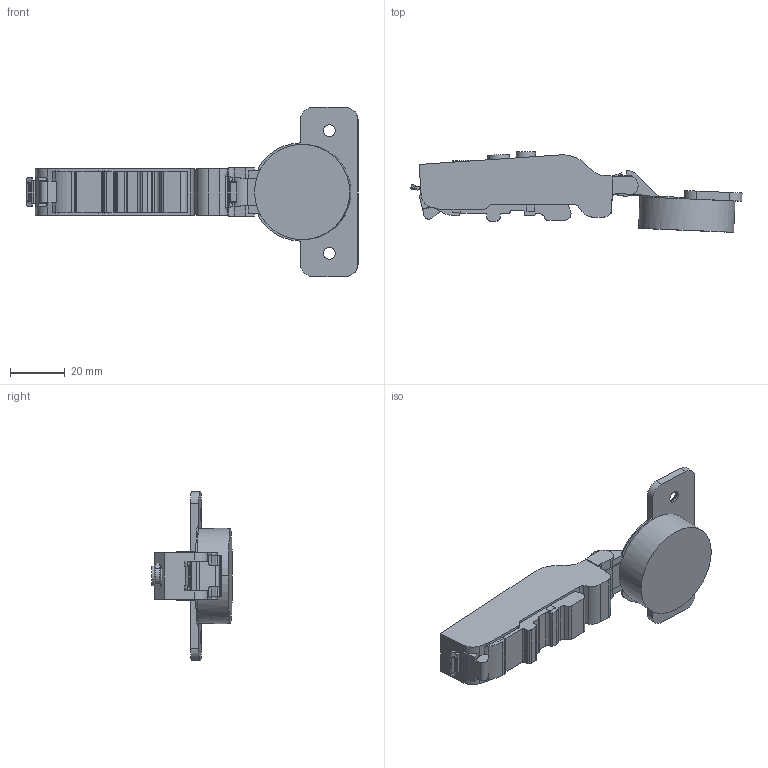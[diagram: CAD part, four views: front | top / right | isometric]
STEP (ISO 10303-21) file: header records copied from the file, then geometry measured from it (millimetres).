
FILE_DESCRIPTION (( 'STEP AP203' ), '1' );
FILE_NAME ('C81A815FAB DTC 3D OPEN.STEP', '2024-07-25T07:09:39', ( '微软用户' ), ( '微软中国' ), 'SwSTEP 2.0', 'SolidWorks 2021', '' );
FILE_SCHEMA (( 'CONFIG_CONTROL_DESIGN' ));
Length unit declared in the file: millimetre
Products named in the file (1): C81A815FAB DTC 3D OPEN
Bounding box: 121.78 x 29.6 x 62 mm (x, y, z)
Volume: 39953.1 mm3; surface area: 12094.9 mm2
Topology: 1 solids, 2 shells, 319 faces, 900 edges, 590 vertices
Faces by surface type: plane 146, cylinder 127, torus 24, bspline 18, cone 4
Entity records: 11056 total; most frequent: CARTESIAN_POINT 2732, ORIENTED_EDGE 1800, DIRECTION 1694, EDGE_CURVE 900, VERTEX_POINT 590, AXIS2_PLACEMENT_3D 588, VECTOR 518, LINE 518
